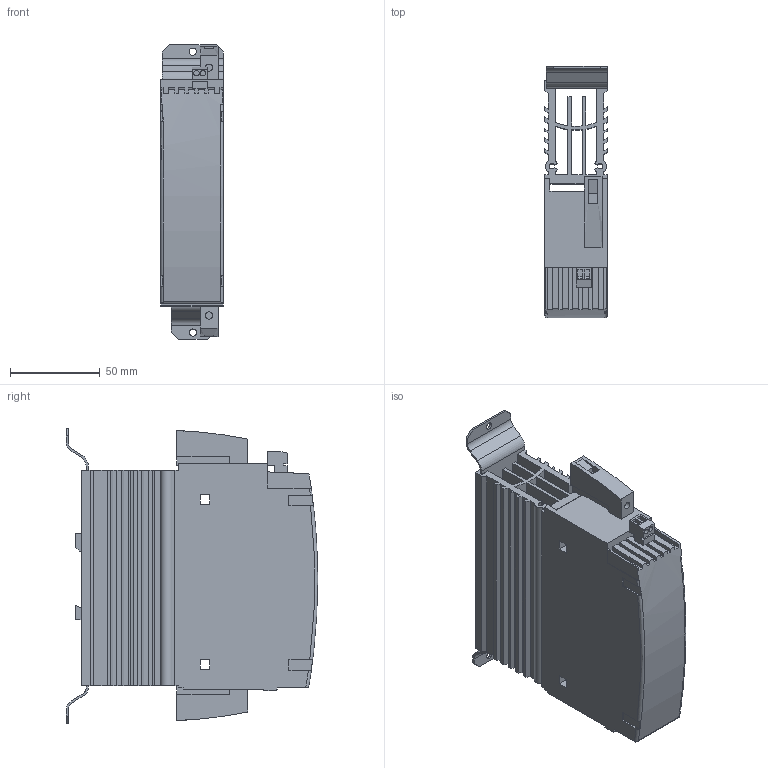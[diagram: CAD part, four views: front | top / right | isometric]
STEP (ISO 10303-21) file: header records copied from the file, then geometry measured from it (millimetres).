
FILE_DESCRIPTION((''),'2;1');
FILE_NAME('7100S_25A_IGES2','2012-01-03T',('chrisloe'),(''),'PRO/ENGINEER BY PARAMETRIC TECHNOLOGY CORPORATION, 2010180','PRO/ENGINEER BY PARAMETRIC TECHNOLOGY CORPORATION, 2010180','');
FILE_SCHEMA(('CONFIG_CONTROL_DESIGN'));
Length unit declared in the file: millimetre
Products named in the file (1): 7100S_25A_IGES2
Bounding box: 35 x 140 x 164 mm (x, y, z)
Volume: 414804.6 mm3; surface area: 121160.7 mm2
Topology: 1 solids, 1 shells, 344 faces, 1019 edges, 673 vertices
Faces by surface type: plane 273, cylinder 66, torus 3, bspline 2
Entity records: 11771 total; most frequent: CARTESIAN_POINT 2371, ORIENTED_EDGE 2038, DIRECTION 1846, EDGE_CURVE 1019, VECTOR 828, LINE 828, VERTEX_POINT 673, AXIS2_PLACEMENT_3D 509
